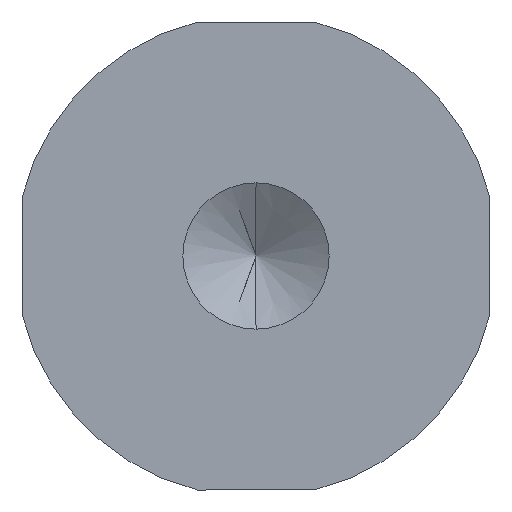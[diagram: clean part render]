
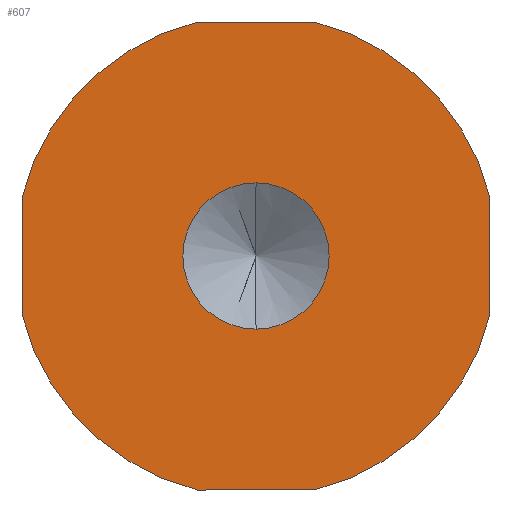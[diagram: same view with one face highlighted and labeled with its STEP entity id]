
A CAD part, front view. The second image highlights one B-rep face of the part: STEP entity #607.
In plain terms, the highlighted planar face has unit normal (0, -1, 0).
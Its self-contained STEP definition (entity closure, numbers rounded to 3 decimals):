
#10 = AXIS2_PLACEMENT_3D ( 'NONE', #257, #353, #73 ) ;
#11 = DIRECTION ( 'NONE',  ( 0., 0., -1. ) ) ;
#15 = DIRECTION ( 'NONE',  ( 0., 0., -1. ) ) ;
#19 = DIRECTION ( 'NONE',  ( 0., 0., -1. ) ) ;
#38 = AXIS2_PLACEMENT_3D ( 'NONE', #360, #76, #15 ) ;
#40 = ORIENTED_EDGE ( 'NONE', *, *, #178, .F. ) ;
#43 = CARTESIAN_POINT ( 'NONE',  ( 16., 0., 4.031 ) ) ;
#49 = AXIS2_PLACEMENT_3D ( 'NONE', #171, #557, #123 ) ;
#54 = EDGE_LOOP ( 'NONE', ( #181, #370, #59, #80, #526, #460, #511, #339 ) ) ;
#59 = ORIENTED_EDGE ( 'NONE', *, *, #140, .T. ) ;
#71 = FACE_OUTER_BOUND ( 'NONE', #54, .T. ) ;
#73 = DIRECTION ( 'NONE',  ( 0., 0., -1. ) ) ;
#76 = DIRECTION ( 'NONE',  ( 0., -1., 0. ) ) ;
#78 = DIRECTION ( 'NONE',  ( 0., 0., 1. ) ) ;
#80 = ORIENTED_EDGE ( 'NONE', *, *, #274, .F. ) ;
#81 = CIRCLE ( 'NONE', #591, 16.5 ) ;
#83 = CARTESIAN_POINT ( 'NONE',  ( 0., 0., -5. ) ) ;
#85 = VERTEX_POINT ( 'NONE', #401 ) ;
#86 = CARTESIAN_POINT ( 'NONE',  ( 4.031, 0., -16. ) ) ;
#91 = CIRCLE ( 'NONE', #38, 5. ) ;
#94 = DIRECTION ( 'NONE',  ( 0., 0., -1. ) ) ;
#96 = EDGE_CURVE ( 'NONE', #616, #236, #115, .T. ) ;
#109 = CARTESIAN_POINT ( 'NONE',  ( -4.031, 0., 16. ) ) ;
#115 = LINE ( 'NONE', #222, #477 ) ;
#117 = EDGE_CURVE ( 'NONE', #429, #251, #500, .T. ) ;
#123 = DIRECTION ( 'NONE',  ( 0., 0., -1. ) ) ;
#129 = FACE_BOUND ( 'NONE', #431, .T. ) ;
#132 = CIRCLE ( 'NONE', #145, 16.5 ) ;
#139 = EDGE_CURVE ( 'NONE', #356, #470, #281, .T. ) ;
#140 = EDGE_CURVE ( 'NONE', #616, #570, #81, .T. ) ;
#145 = AXIS2_PLACEMENT_3D ( 'NONE', #510, #462, #279 ) ;
#160 = CARTESIAN_POINT ( 'NONE',  ( 4.031, 0., 16. ) ) ;
#164 = VECTOR ( 'NONE', #268, 1000. ) ;
#171 = CARTESIAN_POINT ( 'NONE',  ( 0., 0., 0. ) ) ;
#175 = CARTESIAN_POINT ( 'NONE',  ( 16., 0., -4.031 ) ) ;
#178 = EDGE_CURVE ( 'NONE', #85, #625, #91, .T. ) ;
#181 = ORIENTED_EDGE ( 'NONE', *, *, #190, .T. ) ;
#187 = EDGE_CURVE ( 'NONE', #625, #85, #455, .T. ) ;
#189 = ORIENTED_EDGE ( 'NONE', *, *, #187, .F. ) ;
#190 = EDGE_CURVE ( 'NONE', #429, #236, #132, .T. ) ;
#217 = DIRECTION ( 'NONE',  ( -1., 0., 0. ) ) ;
#222 = CARTESIAN_POINT ( 'NONE',  ( 4.031, 0., -16. ) ) ;
#236 = VERTEX_POINT ( 'NONE', #430 ) ;
#247 = CARTESIAN_POINT ( 'NONE',  ( -4.031, 0., 16. ) ) ;
#251 = VERTEX_POINT ( 'NONE', #321 ) ;
#257 = CARTESIAN_POINT ( 'NONE',  ( 0., 0., 0. ) ) ;
#268 = DIRECTION ( 'NONE',  ( 0., 0., 1. ) ) ;
#274 = EDGE_CURVE ( 'NONE', #356, #570, #577, .T. ) ;
#279 = DIRECTION ( 'NONE',  ( 0., 0., -1. ) ) ;
#281 = CIRCLE ( 'NONE', #10, 16.5 ) ;
#315 = EDGE_CURVE ( 'NONE', #416, #470, #391, .T. ) ;
#321 = CARTESIAN_POINT ( 'NONE',  ( -16., 0., 4.031 ) ) ;
#339 = ORIENTED_EDGE ( 'NONE', *, *, #117, .F. ) ;
#341 = VECTOR ( 'NONE', #94, 1000. ) ;
#353 = DIRECTION ( 'NONE',  ( 0., -1., 0. ) ) ;
#356 = VERTEX_POINT ( 'NONE', #446 ) ;
#357 = EDGE_CURVE ( 'NONE', #416, #251, #546, .T. ) ;
#360 = CARTESIAN_POINT ( 'NONE',  ( 0., 0., 0. ) ) ;
#370 = ORIENTED_EDGE ( 'NONE', *, *, #96, .F. ) ;
#391 = LINE ( 'NONE', #109, #465 ) ;
#400 = AXIS2_PLACEMENT_3D ( 'NONE', #432, #579, #11 ) ;
#401 = CARTESIAN_POINT ( 'NONE',  ( 0., 0., 5. ) ) ;
#411 = CARTESIAN_POINT ( 'NONE',  ( -16., 0., -4.031 ) ) ;
#416 = VERTEX_POINT ( 'NONE', #247 ) ;
#429 = VERTEX_POINT ( 'NONE', #491 ) ;
#430 = CARTESIAN_POINT ( 'NONE',  ( -4.031, 0., -16. ) ) ;
#431 = EDGE_LOOP ( 'NONE', ( #189, #40 ) ) ;
#432 = CARTESIAN_POINT ( 'NONE',  ( 0., 0., 0. ) ) ;
#446 = CARTESIAN_POINT ( 'NONE',  ( 16., 0., 4.031 ) ) ;
#455 = CIRCLE ( 'NONE', #49, 5. ) ;
#459 = DIRECTION ( 'NONE',  ( 0., -1., 0. ) ) ;
#460 = ORIENTED_EDGE ( 'NONE', *, *, #315, .F. ) ;
#462 = DIRECTION ( 'NONE',  ( 0., -1., 0. ) ) ;
#465 = VECTOR ( 'NONE', #488, 1000. ) ;
#470 = VERTEX_POINT ( 'NONE', #160 ) ;
#477 = VECTOR ( 'NONE', #217, 1000. ) ;
#488 = DIRECTION ( 'NONE',  ( 1., 0., 0. ) ) ;
#491 = CARTESIAN_POINT ( 'NONE',  ( -16., 0., -4.031 ) ) ;
#500 = LINE ( 'NONE', #411, #164 ) ;
#510 = CARTESIAN_POINT ( 'NONE',  ( 0., 0., 0. ) ) ;
#511 = ORIENTED_EDGE ( 'NONE', *, *, #357, .T. ) ;
#512 = PLANE ( 'NONE',  #538 ) ;
#526 = ORIENTED_EDGE ( 'NONE', *, *, #139, .T. ) ;
#538 = AXIS2_PLACEMENT_3D ( 'NONE', #563, #608, #78 ) ;
#546 = CIRCLE ( 'NONE', #400, 16.5 ) ;
#548 = CARTESIAN_POINT ( 'NONE',  ( 0., 0., 0. ) ) ;
#557 = DIRECTION ( 'NONE',  ( 0., -1., 0. ) ) ;
#563 = CARTESIAN_POINT ( 'NONE',  ( 0., 0., 0. ) ) ;
#570 = VERTEX_POINT ( 'NONE', #175 ) ;
#577 = LINE ( 'NONE', #43, #341 ) ;
#579 = DIRECTION ( 'NONE',  ( 0., -1., 0. ) ) ;
#591 = AXIS2_PLACEMENT_3D ( 'NONE', #548, #459, #19 ) ;
#607 = ADVANCED_FACE ( 'NONE', ( #129, #71 ), #512, .F. ) ;
#608 = DIRECTION ( 'NONE',  ( 0., 1., 0. ) ) ;
#616 = VERTEX_POINT ( 'NONE', #86 ) ;
#625 = VERTEX_POINT ( 'NONE', #83 ) ;
